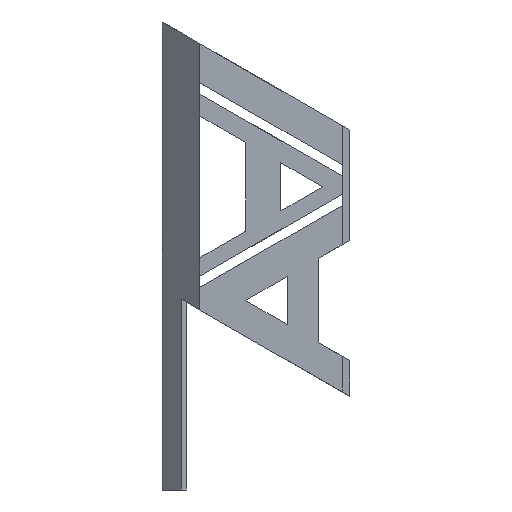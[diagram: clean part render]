
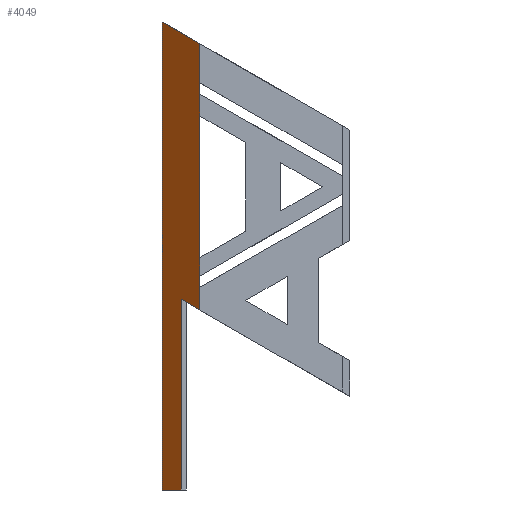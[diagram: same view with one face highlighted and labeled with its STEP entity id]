
A CAD part, left-side view. The second image highlights one B-rep face of the part: STEP entity #4049.
In plain terms, the highlighted planar face has unit normal (-0.707, 0.707, 0).
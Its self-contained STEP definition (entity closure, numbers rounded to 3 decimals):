
#35 = CARTESIAN_POINT ( 'NONE',  ( -63., 20., 162.938 ) ) ;
#81 = ORIENTED_EDGE ( 'NONE', *, *, #4429, .F. ) ;
#134 = LINE ( 'NONE', #801, #3041 ) ;
#240 = CARTESIAN_POINT ( 'NONE',  ( -26.256, 56.744, 47.195 ) ) ;
#323 = VERTEX_POINT ( 'NONE', #3008 ) ;
#381 = ORIENTED_EDGE ( 'NONE', *, *, #4020, .F. ) ;
#493 = LINE ( 'NONE', #1869, #4028 ) ;
#600 = ORIENTED_EDGE ( 'NONE', *, *, #1038, .F. ) ;
#619 = LINE ( 'NONE', #1322, #1154 ) ;
#629 = VECTOR ( 'NONE', #2432, 1000. ) ;
#665 = LINE ( 'NONE', #4052, #2891 ) ;
#794 = VECTOR ( 'NONE', #863, 1000. ) ;
#799 = ORIENTED_EDGE ( 'NONE', *, *, #3758, .F. ) ;
#801 = CARTESIAN_POINT ( 'NONE',  ( -68., 15., 100. ) ) ;
#846 = LINE ( 'NONE', #2223, #3114 ) ;
#863 = DIRECTION ( 'NONE',  ( 0., 0., -1. ) ) ;
#933 = EDGE_LOOP ( 'NONE', ( #2031, #1134, #3138, #3454, #3009, #3414, #1589, #81, #381, #1337, #799, #600 ) ) ;
#1038 = EDGE_CURVE ( 'NONE', #1336, #2245, #3611, .T. ) ;
#1051 = CARTESIAN_POINT ( 'NONE',  ( -58., 25., 100. ) ) ;
#1110 = CARTESIAN_POINT ( 'NONE',  ( -68., 15., 100. ) ) ;
#1134 = ORIENTED_EDGE ( 'NONE', *, *, #1872, .T. ) ;
#1154 = VECTOR ( 'NONE', #2697, 1000. ) ;
#1224 = LINE ( 'NONE', #3295, #794 ) ;
#1250 = VECTOR ( 'NONE', #2594, 1000. ) ;
#1322 = CARTESIAN_POINT ( 'NONE',  ( -58., 25., -25. ) ) ;
#1335 = CARTESIAN_POINT ( 'NONE',  ( -63., 20., -25. ) ) ;
#1336 = VERTEX_POINT ( 'NONE', #2892 ) ;
#1337 = ORIENTED_EDGE ( 'NONE', *, *, #1487, .F. ) ;
#1350 = CARTESIAN_POINT ( 'NONE',  ( -68., 15., 23.094 ) ) ;
#1431 = EDGE_CURVE ( 'NONE', #3277, #2689, #1224, .T. ) ;
#1444 = VERTEX_POINT ( 'NONE', #1901 ) ;
#1451 = CARTESIAN_POINT ( 'NONE',  ( -68., 15., 100. ) ) ;
#1455 = CARTESIAN_POINT ( 'NONE',  ( -58., 25., -25. ) ) ;
#1487 = EDGE_CURVE ( 'NONE', #3570, #1444, #3974, .T. ) ;
#1498 = FACE_OUTER_BOUND ( 'NONE', #933, .T. ) ;
#1570 = CARTESIAN_POINT ( 'NONE',  ( -68., 15., 100. ) ) ;
#1589 = ORIENTED_EDGE ( 'NONE', *, *, #1431, .F. ) ;
#1590 = LINE ( 'NONE', #240, #1250 ) ;
#1594 = VERTEX_POINT ( 'NONE', #1734 ) ;
#1618 = VERTEX_POINT ( 'NONE', #3418 ) ;
#1628 = EDGE_CURVE ( 'NONE', #2414, #2796, #619, .T. ) ;
#1734 = CARTESIAN_POINT ( 'NONE',  ( -58., 25., 100. ) ) ;
#1736 = LINE ( 'NONE', #1051, #2336 ) ;
#1738 = EDGE_CURVE ( 'NONE', #1594, #1336, #493, .T. ) ;
#1782 = DIRECTION ( 'NONE',  ( 0., 0., -1. ) ) ;
#1869 = CARTESIAN_POINT ( 'NONE',  ( -43.857, 39.143, 108.165 ) ) ;
#1872 = EDGE_CURVE ( 'NONE', #1594, #2414, #1736, .T. ) ;
#1887 = DIRECTION ( 'NONE',  ( 0., 0., -1. ) ) ;
#1901 = CARTESIAN_POINT ( 'NONE',  ( -68., 15., 74.889 ) ) ;
#2022 = CARTESIAN_POINT ( 'NONE',  ( -68., 15., 83.797 ) ) ;
#2031 = ORIENTED_EDGE ( 'NONE', *, *, #1738, .F. ) ;
#2093 = CARTESIAN_POINT ( 'NONE',  ( -41.5, 41.5, 100. ) ) ;
#2141 = DIRECTION ( 'NONE',  ( -0.707, -0.707, 0. ) ) ;
#2223 = CARTESIAN_POINT ( 'NONE',  ( -68., 15., 100. ) ) ;
#2245 = VERTEX_POINT ( 'NONE', #2022 ) ;
#2336 = VECTOR ( 'NONE', #3447, 1000. ) ;
#2412 = LINE ( 'NONE', #35, #3336 ) ;
#2414 = VERTEX_POINT ( 'NONE', #1455 ) ;
#2432 = DIRECTION ( 'NONE',  ( 0., 0., -1. ) ) ;
#2594 = DIRECTION ( 'NONE',  ( 0.655, 0.655, 0.378 ) ) ;
#2689 = VERTEX_POINT ( 'NONE', #3980 ) ;
#2692 = EDGE_CURVE ( 'NONE', #2689, #3552, #846, .T. ) ;
#2697 = DIRECTION ( 'NONE',  ( -0.707, -0.707, 0. ) ) ;
#2796 = VERTEX_POINT ( 'NONE', #1335 ) ;
#2891 = VECTOR ( 'NONE', #4420, 1000. ) ;
#2892 = CARTESIAN_POINT ( 'NONE',  ( -68., 15., 94.226 ) ) ;
#2893 = EDGE_CURVE ( 'NONE', #323, #2796, #2412, .T. ) ;
#3008 = CARTESIAN_POINT ( 'NONE',  ( -63., 20., 25.981 ) ) ;
#3009 = ORIENTED_EDGE ( 'NONE', *, *, #3950, .F. ) ;
#3041 = VECTOR ( 'NONE', #3596, 1000. ) ;
#3107 = CARTESIAN_POINT ( 'NONE',  ( -68., 15., 32.067 ) ) ;
#3114 = VECTOR ( 'NONE', #3613, 1000. ) ;
#3125 = PLANE ( 'NONE',  #3466 ) ;
#3138 = ORIENTED_EDGE ( 'NONE', *, *, #1628, .T. ) ;
#3167 = DIRECTION ( 'NONE',  ( -0.707, 0.707, 0. ) ) ;
#3277 = VERTEX_POINT ( 'NONE', #3107 ) ;
#3295 = CARTESIAN_POINT ( 'NONE',  ( -68., 15., 100. ) ) ;
#3336 = VECTOR ( 'NONE', #1782, 1000. ) ;
#3337 = VECTOR ( 'NONE', #4357, 1000. ) ;
#3414 = ORIENTED_EDGE ( 'NONE', *, *, #2692, .F. ) ;
#3418 = CARTESIAN_POINT ( 'NONE',  ( -68., 15., 37.038 ) ) ;
#3447 = DIRECTION ( 'NONE',  ( 0., 0., -1. ) ) ;
#3454 = ORIENTED_EDGE ( 'NONE', *, *, #2893, .F. ) ;
#3466 = AXIS2_PLACEMENT_3D ( 'NONE', #2093, #3167, #2141 ) ;
#3552 = VERTEX_POINT ( 'NONE', #1350 ) ;
#3570 = VERTEX_POINT ( 'NONE', #4000 ) ;
#3596 = DIRECTION ( 'NONE',  ( 0., 0., -1. ) ) ;
#3611 = LINE ( 'NONE', #1110, #3632 ) ;
#3613 = DIRECTION ( 'NONE',  ( 0., 0., -1. ) ) ;
#3632 = VECTOR ( 'NONE', #1887, 1000. ) ;
#3758 = EDGE_CURVE ( 'NONE', #2245, #3570, #3862, .T. ) ;
#3862 = LINE ( 'NONE', #1451, #629 ) ;
#3950 = EDGE_CURVE ( 'NONE', #3552, #323, #1590, .T. ) ;
#3974 = LINE ( 'NONE', #1570, #3337 ) ;
#3980 = CARTESIAN_POINT ( 'NONE',  ( -68., 15., 29.067 ) ) ;
#4000 = CARTESIAN_POINT ( 'NONE',  ( -68., 15., 80.797 ) ) ;
#4020 = EDGE_CURVE ( 'NONE', #1444, #1618, #665, .T. ) ;
#4028 = VECTOR ( 'NONE', #4281, 1000. ) ;
#4049 = ADVANCED_FACE ( 'NONE', ( #1498 ), #3125, .T. ) ;
#4052 = CARTESIAN_POINT ( 'NONE',  ( -68., 15., 100. ) ) ;
#4281 = DIRECTION ( 'NONE',  ( -0.655, -0.655, -0.378 ) ) ;
#4357 = DIRECTION ( 'NONE',  ( 0., 0., -1. ) ) ;
#4420 = DIRECTION ( 'NONE',  ( 0., 0., -1. ) ) ;
#4429 = EDGE_CURVE ( 'NONE', #1618, #3277, #134, .T. ) ;
